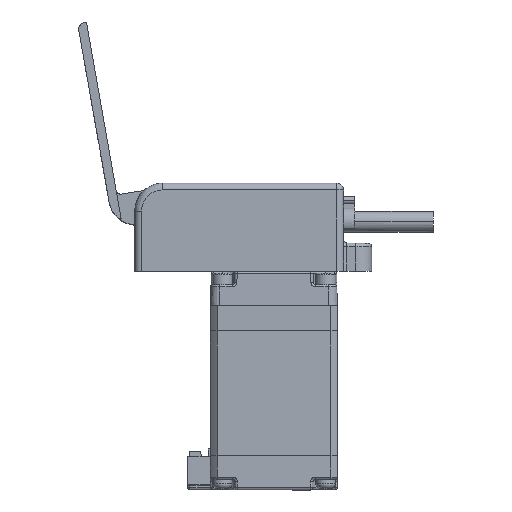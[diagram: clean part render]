
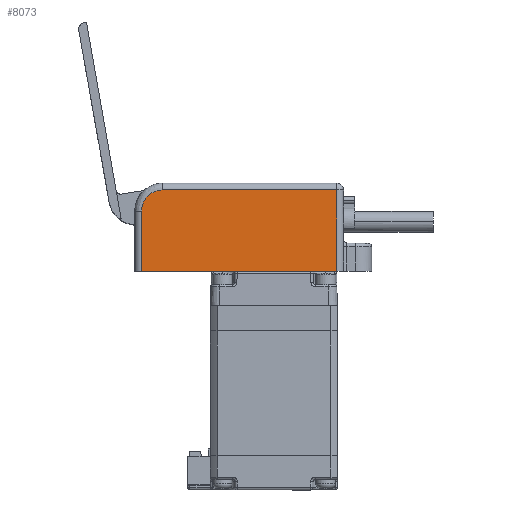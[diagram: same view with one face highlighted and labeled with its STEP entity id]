
A CAD part, top view. The second image highlights one B-rep face of the part: STEP entity #8073.
In plain terms, the highlighted planar face has unit normal (0, 0, 1).
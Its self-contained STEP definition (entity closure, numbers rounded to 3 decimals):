
#877 =( BOUNDED_CURVE ( )  B_SPLINE_CURVE ( 3, ( #5479, #24998, #21203, #9525 ),
 .UNSPECIFIED., .F., .F. ) 
 B_SPLINE_CURVE_WITH_KNOTS ( ( 4, 4 ),
 ( 0., 1. ),
 .UNSPECIFIED. ) 
 CURVE ( )  GEOMETRIC_REPRESENTATION_ITEM ( )  RATIONAL_B_SPLINE_CURVE ( ( 1., 0.805, 0.805, 1. ) ) 
 REPRESENTATION_ITEM ( '' )  );
#1151 = DIRECTION ( 'NONE',  ( 0., -1., 0. ) ) ;
#1263 = LINE ( 'NONE', #20996, #11658 ) ;
#1583 = ORIENTED_EDGE ( 'NONE', *, *, #21659, .F. ) ;
#2170 = VECTOR ( 'NONE', #1151, 1000. ) ;
#3408 = DIRECTION ( 'NONE',  ( 1., 0., 0. ) ) ;
#3934 = ORIENTED_EDGE ( 'NONE', *, *, #21806, .F. ) ;
#4568 = CARTESIAN_POINT ( 'NONE',  ( 0., 0., 15.5 ) ) ;
#4734 = DIRECTION ( 'NONE',  ( 1., 0., 0. ) ) ;
#5119 = EDGE_LOOP ( 'NONE', ( #23000, #1583, #8203, #3934, #23313 ) ) ;
#5124 = EDGE_CURVE ( 'NONE', #17242, #11917, #9411, .T. ) ;
#5262 = FACE_OUTER_BOUND ( 'NONE', #5119, .T. ) ;
#5479 = CARTESIAN_POINT ( 'NONE',  ( -29.5, 13.4, 15.5 ) ) ;
#5561 = DIRECTION ( 'NONE',  ( 0., 0., -1. ) ) ;
#6965 = VECTOR ( 'NONE', #3408, 1000. ) ;
#7364 = LINE ( 'NONE', #14772, #2170 ) ;
#8073 = ADVANCED_FACE ( 'NONE', ( #5262 ), #23007, .F. ) ;
#8203 = ORIENTED_EDGE ( 'NONE', *, *, #23898, .F. ) ;
#9191 = VERTEX_POINT ( 'NONE', #11007 ) ;
#9411 = LINE ( 'NONE', #4568, #24318 ) ;
#9493 = DIRECTION ( 'NONE',  ( 0., 1., 0. ) ) ;
#9525 = CARTESIAN_POINT ( 'NONE',  ( -24.8, 18.1, 15.5 ) ) ;
#10104 = CARTESIAN_POINT ( 'NONE',  ( 14., 18.1, 15.5 ) ) ;
#11007 = CARTESIAN_POINT ( 'NONE',  ( -29.5, 13.4, 15.5 ) ) ;
#11172 = CARTESIAN_POINT ( 'NONE',  ( 0., 18.1, 15.5 ) ) ;
#11267 = VERTEX_POINT ( 'NONE', #16581 ) ;
#11658 = VECTOR ( 'NONE', #9493, 1000. ) ;
#11917 = VERTEX_POINT ( 'NONE', #18689 ) ;
#12159 = LINE ( 'NONE', #11172, #6965 ) ;
#12612 = EDGE_CURVE ( 'NONE', #17242, #9191, #1263, .T. ) ;
#14772 = CARTESIAN_POINT ( 'NONE',  ( 14., 17.5, 15.5 ) ) ;
#16581 = CARTESIAN_POINT ( 'NONE',  ( -24.8, 18.1, 15.5 ) ) ;
#17242 = VERTEX_POINT ( 'NONE', #24515 ) ;
#17253 = CARTESIAN_POINT ( 'NONE',  ( 0., 17.5, 15.5 ) ) ;
#18689 = CARTESIAN_POINT ( 'NONE',  ( 14., 0., 15.5 ) ) ;
#18986 = VERTEX_POINT ( 'NONE', #10104 ) ;
#19222 = DIRECTION ( 'NONE',  ( -1., 0., 0. ) ) ;
#20996 = CARTESIAN_POINT ( 'NONE',  ( -29.5, 17.5, 15.5 ) ) ;
#21203 = CARTESIAN_POINT ( 'NONE',  ( -27.553, 18.1, 15.5 ) ) ;
#21659 = EDGE_CURVE ( 'NONE', #18986, #11917, #7364, .T. ) ;
#21806 = EDGE_CURVE ( 'NONE', #9191, #11267, #877, .T. ) ;
#23000 = ORIENTED_EDGE ( 'NONE', *, *, #5124, .T. ) ;
#23007 = PLANE ( 'NONE',  #24058 ) ;
#23313 = ORIENTED_EDGE ( 'NONE', *, *, #12612, .F. ) ;
#23898 = EDGE_CURVE ( 'NONE', #11267, #18986, #12159, .T. ) ;
#24058 = AXIS2_PLACEMENT_3D ( 'NONE', #17253, #5561, #19222 ) ;
#24318 = VECTOR ( 'NONE', #4734, 1000. ) ;
#24515 = CARTESIAN_POINT ( 'NONE',  ( -29.5, 0., 15.5 ) ) ;
#24998 = CARTESIAN_POINT ( 'NONE',  ( -29.5, 16.153, 15.5 ) ) ;
